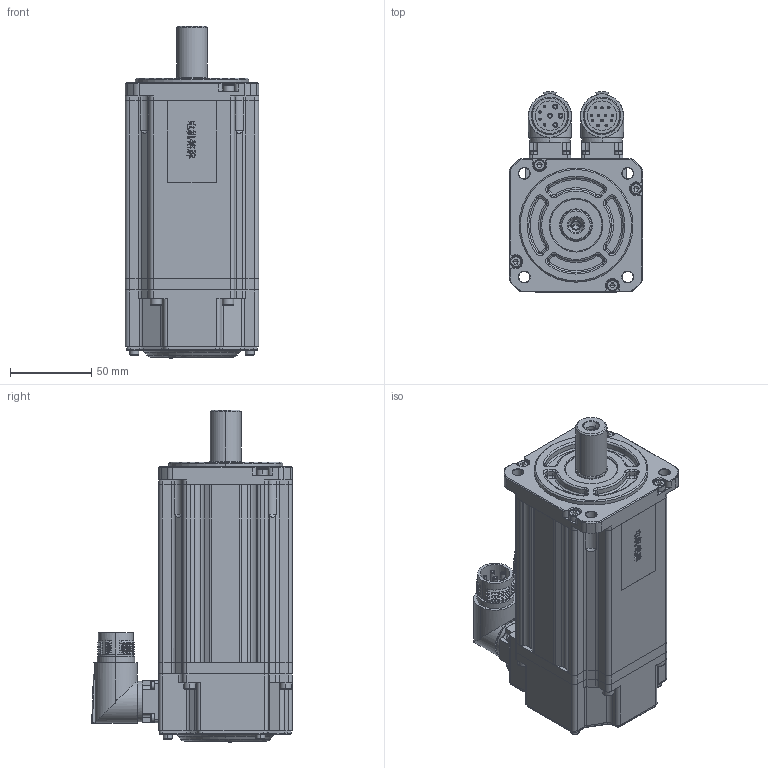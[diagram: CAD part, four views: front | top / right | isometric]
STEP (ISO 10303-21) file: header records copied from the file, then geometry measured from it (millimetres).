
FILE_DESCRIPTION (( 'STEP AP203' ), '1' );
FILE_NAME ('MC20-080-3L30-N102-1¡õPL-NNNN.STEP', '2025-09-19T07:41:05', ( '' ), ( '' ), 'SwSTEP 2.0', 'SolidWorks 2014', '' );
FILE_SCHEMA (( 'CONFIG_CONTROL_DESIGN' ));
Length unit declared in the file: millimetre
Products named in the file (1): MC20-080-3L30-N102-1¡õPL-NNNN
Bounding box: 82 x 123.35 x 204 mm (x, y, z)
Volume: 1109199.8 mm3; surface area: 155659.8 mm2
Topology: 27 solids, 27 shells, 2462 faces, 6054 edges, 3763 vertices
Faces by surface type: plane 1187, cylinder 540, cone 315, bspline 246, torus 174
Entity records: 80531 total; most frequent: CARTESIAN_POINT 23424, ORIENTED_EDGE 11960, DIRECTION 11509, EDGE_CURVE 5980, AXIS2_PLACEMENT_3D 4031, VERTEX_POINT 3763, VECTOR 3447, LINE 3447
